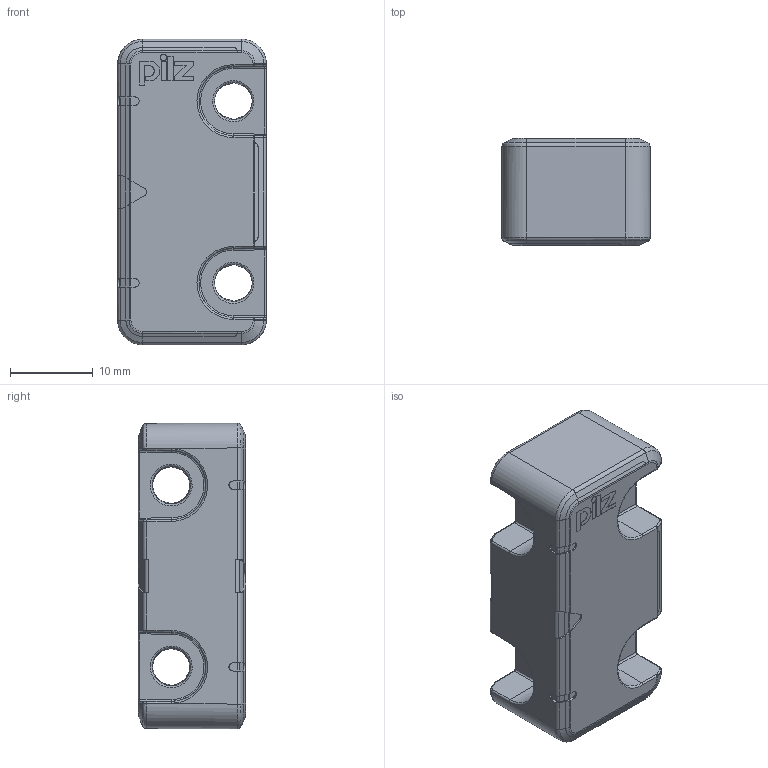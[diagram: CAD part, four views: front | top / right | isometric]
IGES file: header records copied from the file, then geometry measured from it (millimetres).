
Global section: file name: No Iges File Name specified; native system: Autodesk Inventor 2013; preprocessor: AutoDesk Inventor Iges Exporter R2013; author: aschlecht; date: 20140724.130028; units: millimetre
Bounding box: 17.99 x 13.02 x 36.99 mm (x, y, z)
Volume: 6650.4 mm3; surface area: 3088.1 mm2
Topology: 1 solids, 1 shells, 348 faces, 887 edges, 540 vertices
Faces by surface type: bspline 348
